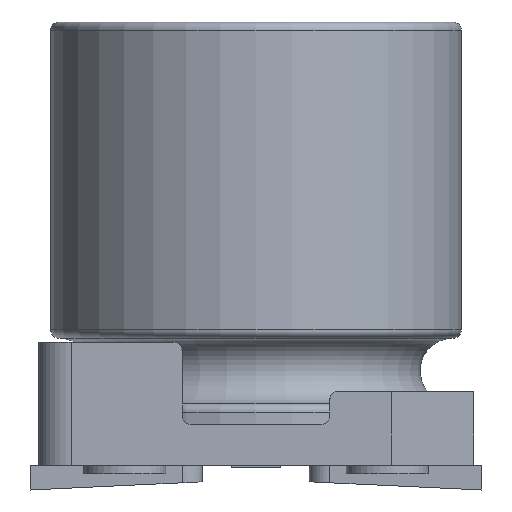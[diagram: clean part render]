
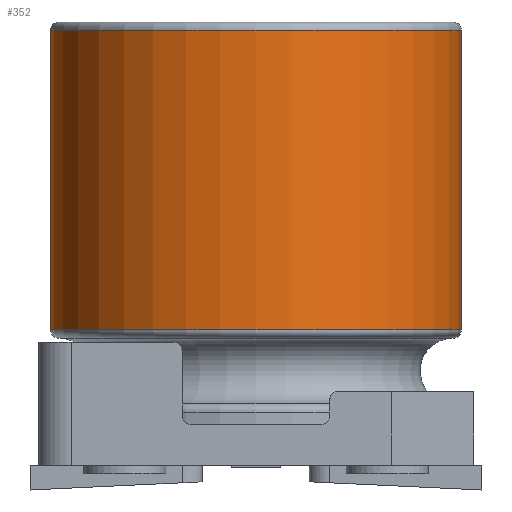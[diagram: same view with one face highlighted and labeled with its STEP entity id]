
A CAD part, front view. The second image highlights one B-rep face of the part: STEP entity #352.
In plain terms, the highlighted cylindrical face has radius 2.5 mm (diameter 5 mm), a full revolution.
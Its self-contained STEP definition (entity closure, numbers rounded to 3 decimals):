
#204=CYLINDRICAL_SURFACE('',#1591,2.5);
#352=ADVANCED_FACE('',(#436,#437),#204,.T.);
#436=FACE_BOUND('',#512,.T.);
#437=FACE_BOUND('',#513,.T.);
#512=EDGE_LOOP('',(#873));
#513=EDGE_LOOP('',(#874));
#580=CIRCLE('',#1589,2.5);
#581=CIRCLE('',#1590,2.5);
#873=ORIENTED_EDGE('',*,*,#1226,.T.);
#874=ORIENTED_EDGE('',*,*,#1227,.T.);
#1055=VERTEX_POINT('',#2453);
#1056=VERTEX_POINT('',#2455);
#1226=EDGE_CURVE('',#1055,#1055,#580,.T.);
#1227=EDGE_CURVE('',#1056,#1056,#581,.T.);
#1589=AXIS2_PLACEMENT_3D('',#2452,#1904,#1905);
#1590=AXIS2_PLACEMENT_3D('',#2454,#1906,#1907);
#1591=AXIS2_PLACEMENT_3D('',#2456,#1908,#1909);
#1904=DIRECTION('',(0.,0.,1.));
#1905=DIRECTION('',(1.,0.,0.));
#1906=DIRECTION('',(0.,0.,-1.));
#1907=DIRECTION('',(-1.,0.,0.));
#1908=DIRECTION('',(0.,0.,-1.));
#1909=DIRECTION('',(-1.,0.,0.));
#2452=CARTESIAN_POINT('',(0.,0.,1.65));
#2453=CARTESIAN_POINT('',(2.5,0.,1.65));
#2454=CARTESIAN_POINT('',(0.,0.,5.3));
#2455=CARTESIAN_POINT('',(-2.5,0.,5.3));
#2456=CARTESIAN_POINT('',(0.,0.,0.));
